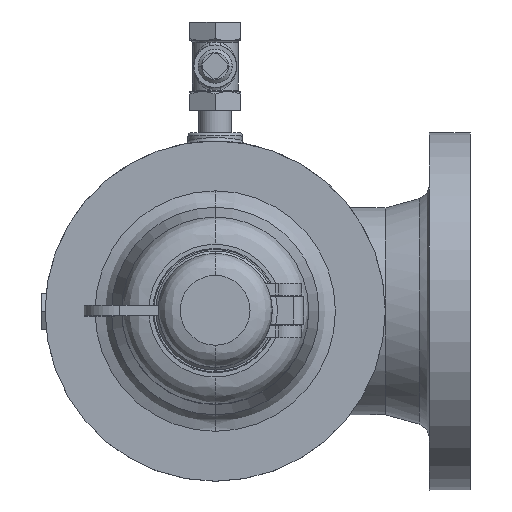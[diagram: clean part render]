
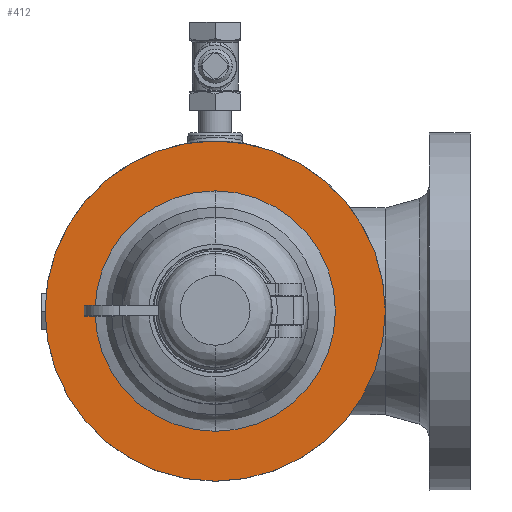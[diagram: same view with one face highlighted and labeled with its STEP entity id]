
A CAD part, top view. The second image highlights one B-rep face of the part: STEP entity #412.
In plain terms, the highlighted planar face has unit normal (0, 0, 1) as drawn and (0, 1, 0) by its records, which use the part's own axes.
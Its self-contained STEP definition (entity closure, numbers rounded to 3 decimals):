
#412=ADVANCED_FACE('',(#1784,#1785),#1783,.T.);
#1783=PLANE('',#12167);
#1784=FACE_OUTER_BOUND('',#12168,.T.);
#1785=FACE_BOUND('',#12169,.T.);
#12164=CARTESIAN_POINT('',(-183.205,103.,-210.));
#12165=DIRECTION('',(0.,1.,0.));
#12166=DIRECTION('',(0.,0.,1.));
#12167=AXIS2_PLACEMENT_3D('',#12164,#12165,#12166);
#12168=EDGE_LOOP('',(#16187,#16188));
#12169=EDGE_LOOP('',(#16189,#16190));
#16187=ORIENTED_EDGE('',*,*,#17904,.T.);
#16188=ORIENTED_EDGE('',*,*,#17905,.T.);
#16189=ORIENTED_EDGE('',*,*,#17906,.T.);
#16190=ORIENTED_EDGE('',*,*,#17907,.T.);
#17904=EDGE_CURVE('',#21029,#21030,#21031,.T.);
#17905=EDGE_CURVE('',#21030,#21029,#21037,.T.);
#17906=EDGE_CURVE('',#21043,#21044,#21045,.T.);
#17907=EDGE_CURVE('',#21044,#21043,#21051,.T.);
#21029=VERTEX_POINT('',#28231);
#21030=VERTEX_POINT('',#28232);
#21031=CIRCLE('',#28236,100.);
#21037=CIRCLE('',#28240,100.);
#21043=VERTEX_POINT('',#28241);
#21044=VERTEX_POINT('',#28242);
#21045=CIRCLE('',#28246,70.673);
#21051=CIRCLE('',#28250,70.673);
#28231=CARTESIAN_POINT('',(0.,103.,100.));
#28232=CARTESIAN_POINT('',(0.,103.,-100.));
#28233=CARTESIAN_POINT('',(0.,103.,0.));
#28234=DIRECTION('',(0.,1.,0.));
#28235=DIRECTION('',(0.,0.,1.));
#28236=AXIS2_PLACEMENT_3D('',#28233,#28234,#28235);
#28237=CARTESIAN_POINT('',(0.,103.,0.));
#28238=DIRECTION('',(0.,1.,0.));
#28239=DIRECTION('',(0.,0.,1.));
#28240=AXIS2_PLACEMENT_3D('',#28237,#28238,#28239);
#28241=CARTESIAN_POINT('',(0.,103.,70.673));
#28242=CARTESIAN_POINT('',(0.,103.,-70.673));
#28243=CARTESIAN_POINT('',(0.,103.,0.));
#28244=DIRECTION('',(0.,-1.,0.));
#28245=DIRECTION('',(0.,0.,1.));
#28246=AXIS2_PLACEMENT_3D('',#28243,#28244,#28245);
#28247=CARTESIAN_POINT('',(0.,103.,0.));
#28248=DIRECTION('',(0.,-1.,0.));
#28249=DIRECTION('',(0.,0.,1.));
#28250=AXIS2_PLACEMENT_3D('',#28247,#28248,#28249);
